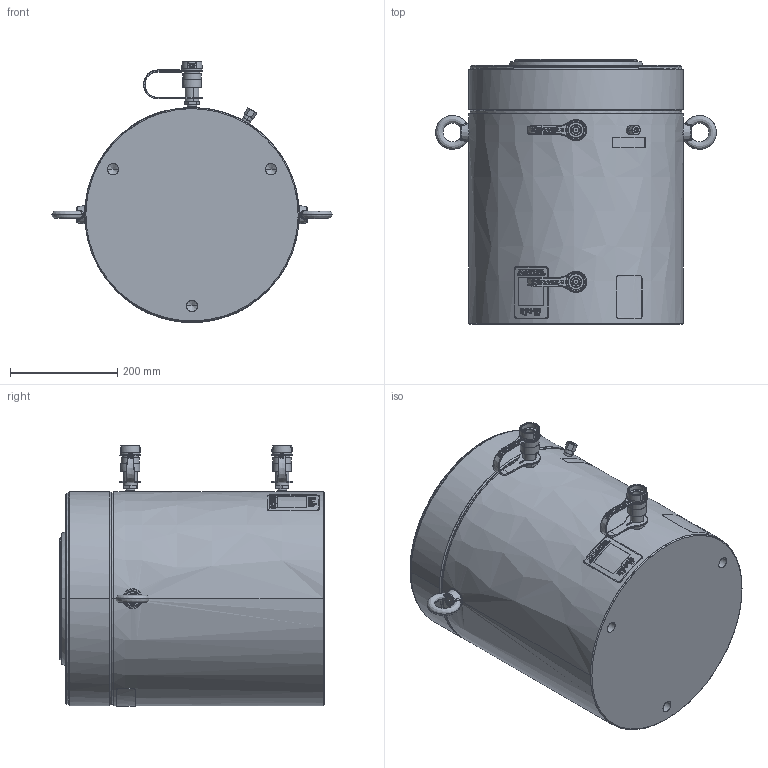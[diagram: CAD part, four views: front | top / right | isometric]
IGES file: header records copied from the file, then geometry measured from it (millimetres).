
Start section:  PTC IGES file: hcr5008.igs
Global section: file name: hcr5008.igs; native system: Creo Parametric by PTC Inc.; preprocessor: 2015290; author: Akhilesh.Subrahmanya; organization: Unknown; date: 20170629.112736; units: millimetre
Bounding box: 523.98 x 494 x 486.87 mm (x, y, z)
Surface area: 1237941.1 mm2 (no closed solid volume)
Topology: 0 solids, 0 shells, 730 faces, 6778 edges, 6766 vertices
Faces by surface type: revolution 465, bspline 259, extrusion 6
